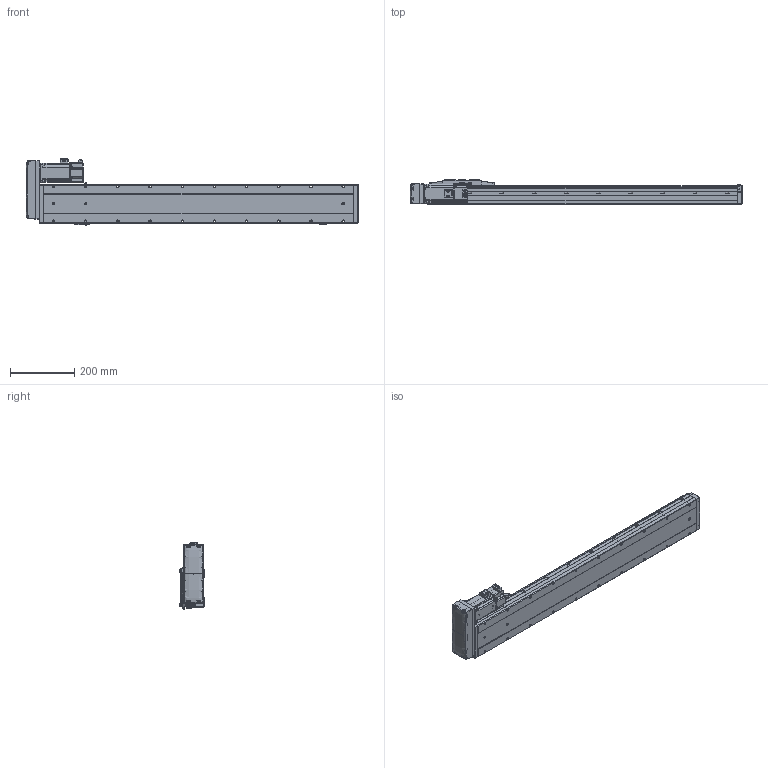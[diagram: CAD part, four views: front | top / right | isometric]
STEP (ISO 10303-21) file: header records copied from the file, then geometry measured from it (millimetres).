
FILE_DESCRIPTION (( 'STEP AP214' ), '1' );
FILE_NAME ('CTH12-L10-S750-BL-C40（简）.STEP', '2023-02-06T04:55:13', ( '' ), ( '' ), 'SwSTEP 2.0', 'SolidWorks 2018', '' );
FILE_SCHEMA (( 'AUTOMOTIVE_DESIGN' ));
Length unit declared in the file: millimetre
Products named in the file (24): CTH12賑怢郪磁; CTH12_body_3; CTH12底座-L961简（750行程）; 内六角圆柱头螺钉M3-2; hex nuts, style 1-grades ab gb_GB_FASTENER_NUT_SNAB1 M3-N; PM-Y45; 嫖萇羲壽郪磁1; 400W萇儂; CTH12-BL_body_4; M5蹟隊; 嫖萇羲壽郪磁2; 内六角圆柱头螺钉M3; CTH400W垫板（3个厚）; CTH12覜茼え; 湮賑怢  裔赽-1(CTH12)賑怢; CTH400W假蚾啣; CTH12耜蚾裔; CTH嫖萇羲壽假蚾啣; CTH12侧装连接板（标准）简; CTH12-L10-S750-BL-C40（简）; CTH12; 蚐郲; CTH12賑怢ㄗ潠ㄘ; 内六角圆柱头螺钉M3-1
Assembly tree (44 placements, depth 4):
  CTH12-L10-S750-BL-C40（简）
    CTH12底座-L961简（750行程）
    蚐郲  x2
    CTH12_body_3
    CTH12-BL_body_4
    CTH12侧装连接板（标准）简
    CTH12耜蚾裔
    CTH12賑怢郪磁
      CTH12
        湮賑怢  裔赽-1(CTH12)賑怢
        CTH12賑怢ㄗ潠ㄘ
    CTH12覜茼え
    CTH400W垫板（3个厚）
    400W萇儂
    内六角圆柱头螺钉M3  x6
    M5蹟隊  x4
    嫖萇羲壽郪磁1
      CTH嫖萇羲壽假蚾啣
      PM-Y45
      内六角圆柱头螺钉M3-2  x2
      内六角圆柱头螺钉M3-1  x2
      hex nuts, style 1-grades ab gb_GB_FASTENER_NUT_SNAB1 M3-N  x2
    嫖萇羲壽郪磁2  x2
      CTH嫖萇羲壽假蚾啣
      PM-Y45
      内六角圆柱头螺钉M3-1
      内六角圆柱头螺钉M3-2
      hex nuts, style 1-grades ab gb_GB_FASTENER_NUT_SNAB1 M3-N
    CTH400W假蚾啣
Bounding box: 1031.5 x 76 x 205.26 mm (x, y, z)
Volume: 6952094.2 mm3; surface area: 712769.8 mm2
Topology: 47 solids, 48 shells, 3266 faces, 8153 edges, 5109 vertices
Faces by surface type: plane 1578, cylinder 935, cone 439, bspline 186, torus 124, sphere 4
Entity records: 107642 total; most frequent: CARTESIAN_POINT 39994, ORIENTED_EDGE 13408, DIRECTION 12686, EDGE_CURVE 6704, AXIS2_PLACEMENT_3D 4448, VERTEX_POINT 4213, VECTOR 3790, LINE 3790
